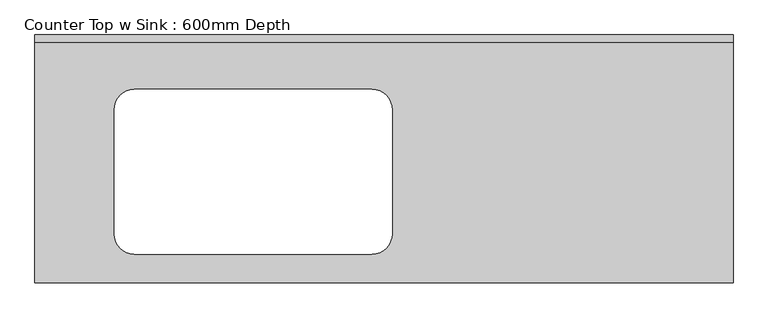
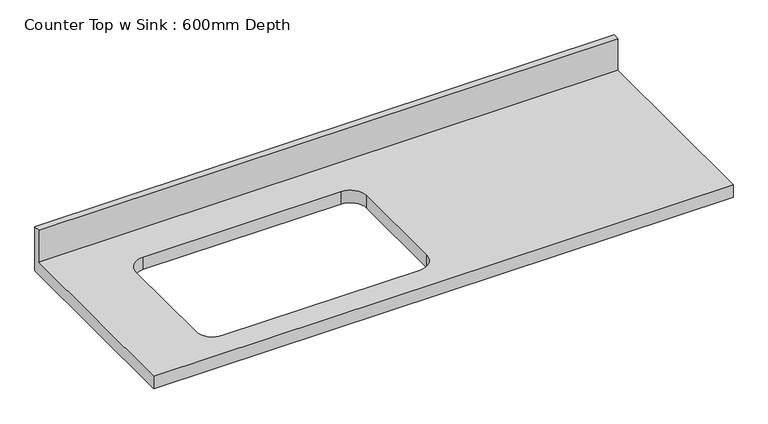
"""IFC4 building model written with IfcOpenShell, lengths in millimetres: furniture geometry, Counter Top w Sink : 600mm Depth."""

from ifc_helpers import new_model, si_unit, frame, origin, place, context, project, spatial, polyline, circle_curve, source, transform, mapped, element, save
from ifc_brep_helpers import plane_surface, revolved_surface, advanced_brep


def counter_top_w_sink_600mm_depth_e0dbcb41(model_context):
    return source(origin(), model_context, "Body", "AdvancedBrep", [
        advanced_brep(
        [(-1200.4622951, -625.0, 900.0), (559.4773679, -625.0, 900.0), (559.4773679, -19.05, 900.0), (-1200.4622951, -19.05, 900.0), (-949.9226321, -137.3, 900.0), (-351.1226321, -137.3, 900.0), (-300.3226321, -188.1, 900.0), (-300.3226321, -501.9, 900.0), (-351.1226321, -552.7, 900.0), (-949.9226321, -552.7, 900.0), (-1000.7226321, -501.9, 900.0), (-1000.7226321, -188.1, 900.0), (559.4773679, 0.0, 860.0), (559.4773679, -625.0, 860.0), (-1200.4622951, -625.0, 860.0), (-1200.4622951, 0.0, 860.0), (-351.1226321, -137.3, 860.0), (-949.9226321, -137.3, 860.0), (-1000.7226321, -188.1, 860.0), (-1000.7226321, -501.9, 860.0), (-949.9226321, -552.7, 860.0), (-351.1226321, -552.7, 860.0), (-300.3226321, -501.9, 860.0), (-300.3226321, -188.1, 860.0), (-1200.4622951, 0.0, 1001.6), (559.4773679, 0.0, 1001.6), (-1200.4622951, -19.05, 1001.6), (559.4773679, -19.05, 1001.6)],
        [
            (0, 1),
            (1, 2),
            (2, 3),
            (3, 0),
            (4, 5),
            (5, 6, circle_curve(frame((-351.1226321, -188.1, 900.0), z_axis=(0.0, 0.0, -1.0), x_axis=(1.0, 0.0, 0.0)), 50.8)),
            (6, 7),
            (7, 8, circle_curve(frame((-351.1226321, -501.9, 900.0), z_axis=(0.0, 0.0, -1.0), x_axis=(1.0, 0.0, 0.0)), 50.8)),
            (8, 9),
            (9, 10, circle_curve(frame((-949.9226321, -501.9, 900.0), z_axis=(0.0, 0.0, -1.0), x_axis=(1.0, 0.0, 0.0)), 50.8)),
            (10, 11),
            (11, 4, circle_curve(frame((-949.9226321, -188.1, 900.0), z_axis=(0.0, 0.0, -1.0), x_axis=(1.0, 0.0, 0.0)), 50.8)),
            (12, 13),
            (13, 14),
            (14, 15),
            (15, 12),
            (16, 17),
            (17, 18, circle_curve(frame((-949.9226321, -188.1, 860.0), z_axis=(0.0, 0.0, 1.0), x_axis=(1.0, 0.0, 0.0)), 50.8)),
            (18, 19),
            (19, 20, circle_curve(frame((-949.9226321, -501.9, 860.0), z_axis=(0.0, 0.0, 1.0), x_axis=(1.0, 0.0, 0.0)), 50.8)),
            (20, 21),
            (21, 22, circle_curve(frame((-351.1226321, -501.9, 860.0), z_axis=(0.0, 0.0, 1.0), x_axis=(1.0, 0.0, 0.0)), 50.8)),
            (22, 23),
            (23, 16, circle_curve(frame((-351.1226321, -188.1, 860.0), z_axis=(0.0, 0.0, 1.0), x_axis=(1.0, 0.0, 0.0)), 50.8)),
            (15, 24),
            (24, 25),
            (25, 12),
            (14, 0),
            (3, 26),
            (26, 24),
            (13, 1),
            (25, 27),
            (27, 2),
            (26, 27),
            (4, 17),
            (16, 5),
            (11, 18),
            (10, 19),
            (9, 20),
            (8, 21),
            (7, 22),
            (6, 23),
        ],
        [
            plane_surface(frame((-1200.4622951, 0.0, 900.0), z_axis=(0.0, 0.0, 1.0), x_axis=(-1.0, 0.0, 0.0))),
            plane_surface(frame((-1200.4622951, 0.0, 860.0), z_axis=(0.0, 0.0, -1.0), x_axis=(1.0, 0.0, 0.0))),
            plane_surface(frame((559.4773679, 0.0, 900.0), z_axis=(0.0, 1.0, 0.0), x_axis=(0.0, 0.0, -1.0))),
            plane_surface(frame((-1200.4622951, 0.0, 900.0), z_axis=(-1.0, 0.0, 0.0), x_axis=(0.0, 0.0, -1.0))),
            plane_surface(frame((-1200.4622951, -625.0, 900.0), z_axis=(0.0, -1.0, 0.0), x_axis=(0.0, 0.0, -1.0))),
            plane_surface(frame((559.4773679, -625.0, 900.0), z_axis=(1.0, 0.0, 0.0), x_axis=(0.0, 0.0, -1.0))),
            plane_surface(frame((-1200.4622951, 0.0, 1001.6), z_axis=(0.0, 0.0, 1.0), x_axis=(0.0, -1.0, 0.0))),
            plane_surface(frame((-1200.4622951, -19.05, 1001.6), z_axis=(0.0, -1.0, 0.0), x_axis=(0.0, 0.0, -1.0))),
            plane_surface(frame((-351.1226321, -137.3, 900.0), z_axis=(0.0, -1.0, 0.0), x_axis=(0.0, 0.0, -1.0))),
            revolved_surface(polyline([(-899.1226321, -188.1, 900.0), (-899.1226321, -188.1, 860.0)]), (-949.9226321, -188.1, 860.0), (0.0, 0.0, 1.0)),
            plane_surface(frame((-1000.7226321, -188.1, 900.0), z_axis=(1.0, 0.0, 0.0), x_axis=(0.0, 0.0, -1.0))),
            revolved_surface(polyline([(-899.1226321, -501.9, 900.0), (-899.1226321, -501.9, 860.0)]), (-949.9226321, -501.9, 860.0), (0.0, 0.0, 1.0)),
            plane_surface(frame((-949.9226321, -552.7, 900.0), z_axis=(0.0, 1.0, 0.0), x_axis=(0.0, 0.0, -1.0))),
            revolved_surface(polyline([(-300.32263209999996, -501.9, 900.0), (-300.32263209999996, -501.9, 860.0)]), (-351.1226321, -501.9, 860.0), (0.0, 0.0, 1.0)),
            plane_surface(frame((-300.3226321, -501.9, 900.0), z_axis=(-1.0, 0.0, 0.0), x_axis=(0.0, 0.0, -1.0))),
            revolved_surface(polyline([(-300.32263209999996, -188.1, 900.0), (-300.32263209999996, -188.1, 860.0)]), (-351.1226321, -188.1, 860.0), (0.0, 0.0, 1.0)),
        ],
        [
            (0, [[1, 2, 3, 4], [5, 6, 7, 8, 9, 10, 11, 12]]),
            (1, [[13, 14, 15, 16], [17, 18, 19, 20, 21, 22, 23, 24]]),
            (2, [[-16, 25, 26, 27]]),
            (3, [[-15, 28, -4, 29, 30, -25]]),
            (4, [[-1, -28, -14, 31]]),
            (5, [[-13, -27, 32, 33, -2, -31]]),
            (6, [[-30, 34, -32, -26]]),
            (7, [[-34, -29, -3, -33]]),
            (8, [[35, -17, 36, -5]]),
            (9, [[-35, -12, 37, -18]]),
            (10, [[-37, -11, 38, -19]]),
            (11, [[-38, -10, 39, -20]]),
            (12, [[-39, -9, 40, -21]]),
            (13, [[-40, -8, 41, -22]]),
            (14, [[-41, -7, 42, -23]]),
            (15, [[-36, -24, -42, -6]]),
        ],
    ),
    ])


if __name__ == "__main__":
    model = new_model("IFC4")
    model_context = context("Model", 3, world=origin())
    ifc_project = project(units=[si_unit("LENGTHUNIT", "METRE", prefix="MILLI")], contexts=[model_context])
    site = spatial("IfcSite", under=ifc_project)
    building = spatial("IfcBuilding", under=site)
    placement = place(None, origin())
    counter_top_w_sink_600mm_depth_shape = counter_top_w_sink_600mm_depth_e0dbcb41(model_context)
    element("IfcFurniture", 1, ObjectType="Counter Top w Sink : 600mm Depth", at=placement, inside=building, context=model_context, shape_type="MappedRepresentation", body=[
        mapped(counter_top_w_sink_600mm_depth_shape, transform((0.0, 0.0, 0.0), x_axis=(1.0, 0.0, 0.0), y_axis=(0.0, 1.0, 0.0), z_axis=(0.0, 0.0, 1.0))),
    ])
    save(model, "model.ifc")
